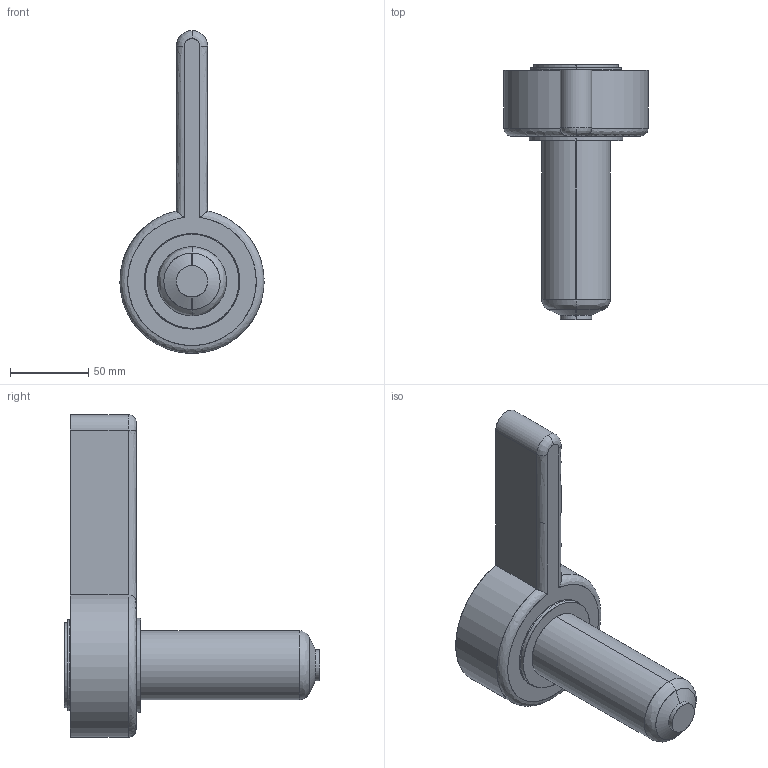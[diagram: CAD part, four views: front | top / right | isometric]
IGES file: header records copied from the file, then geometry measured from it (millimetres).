
Start section: SolidWorks IGES file using analytic representation for surfaces
Global section: file name: C:\Documents and Settings\ws-20\Desktop\TEM\Sede UGER6605-S-A C-114 L-161.IGS; native system: SolidWorks 2012; preprocessor: SolidWorks 2012; author: ws-20; date: 120417.105514; units: millimetre
Bounding box: 91.98 x 163.29 x 206 mm (x, y, z)
Surface area: 54058.2 mm2 (no closed solid volume)
Topology: 0 solids, 0 shells, 34 faces, 788 edges, 788 vertices
Faces by surface type: revolution 21, bspline 13
